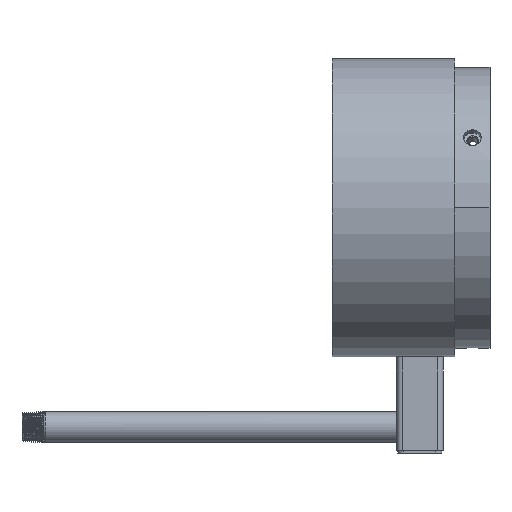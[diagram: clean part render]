
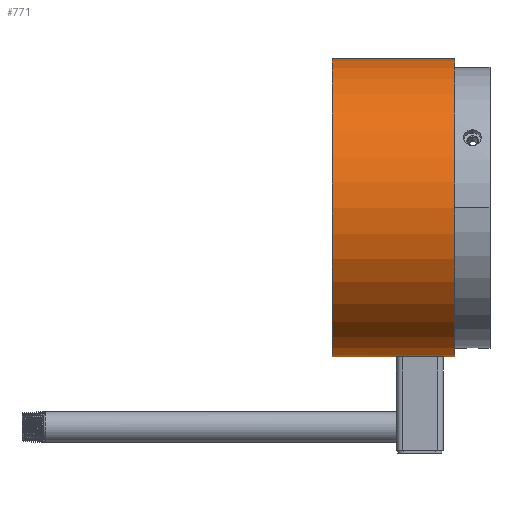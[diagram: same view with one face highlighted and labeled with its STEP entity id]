
A CAD part, left-side view. The second image highlights one B-rep face of the part: STEP entity #771.
In plain terms, the highlighted cylindrical face has radius 161.925 mm (diameter 323.85 mm), a partial arc.
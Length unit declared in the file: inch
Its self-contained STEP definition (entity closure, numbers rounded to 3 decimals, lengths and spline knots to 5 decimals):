
#87 = CARTESIAN_POINT ( 'NONE',  ( -0.31845, 1.44841, -6.36705 ) ) ;
#337 = CARTESIAN_POINT ( 'NONE',  ( -0.04926, 0.87743, -6.37486 ) ) ;
#414 = CARTESIAN_POINT ( 'NONE',  ( -0.14406, 0.90313, -6.3734 ) ) ;
#464 = LINE ( 'NONE', #8086, #7445 ) ;
#490 = DIRECTION ( 'NONE',  ( 0., 1., 0. ) ) ;
#500 = EDGE_CURVE ( 'NONE', #8513, #4469, #5097, .T. ) ;
#526 = DIRECTION ( 'NONE',  ( 0., 1., 0. ) ) ;
#531 = CIRCLE ( 'NONE', #9754, 6.375 ) ;
#771 = ADVANCED_FACE ( 'NONE', ( #3621 ), #11639, .T. ) ;
#821 = CARTESIAN_POINT ( 'NONE',  ( -0.35513, 1.37106, -6.3651 ) ) ;
#861 = CARTESIAN_POINT ( 'NONE',  ( -0.12047, 1.60533, -6.37387 ) ) ;
#942 = CARTESIAN_POINT ( 'NONE',  ( -0.09692, 1.61247, -6.37427 ) ) ;
#1039 = ORIENTED_EDGE ( 'NONE', *, *, #500, .T. ) ;
#1139 = EDGE_CURVE ( 'NONE', #2051, #5544, #10466, .T. ) ;
#1336 = CARTESIAN_POINT ( 'NONE',  ( -0.19841, 0.93155, -6.37192 ) ) ;
#1371 = CARTESIAN_POINT ( 'NONE',  ( -0.02477, 0.875, -6.375 ) ) ;
#1456 = CARTESIAN_POINT ( 'NONE',  ( -0.32554, 1.06225, -6.3667 ) ) ;
#1801 = LINE ( 'NONE', #11778, #1955 ) ;
#1812 = EDGE_CURVE ( 'NONE', #2051, #5770, #5105, .T. ) ;
#1820 = CARTESIAN_POINT ( 'NONE',  ( -0.28236, 1.49798, -6.36877 ) ) ;
#1955 = VECTOR ( 'NONE', #490, 39.37008 ) ;
#1985 = CARTESIAN_POINT ( 'NONE',  ( 0., -0.25, -6.375 ) ) ;
#2033 = B_SPLINE_CURVE_WITH_KNOTS ( 'NONE', 3,
 ( #10590, #2088, #4254, #6093, #3294, #10813, #9848, #5220, #1456, #9817, #9887, #7006, #5139, #1336, #8912, #5099, #414, #4174, #11754, #8058, #337, #1371, #8943 ),
 .UNSPECIFIED., .F., .F.,
 ( 4, 2, 2, 2, 2, 2, 2, 2, 1, 2, 2, 4 ),
 ( 0.04465, 0.04651, 0.04744, 0.04837, 0.05023, 0.05209, 0.05395, 0.05488, 0.05581, 0.05674, 0.05767, 0.05953 ),
 .UNSPECIFIED. ) ;
#2051 = VERTEX_POINT ( 'NONE', #1985 ) ;
#2088 = CARTESIAN_POINT ( 'NONE',  ( -0.375, 1.22523, -6.36396 ) ) ;
#2266 = DIRECTION ( 'NONE',  ( 0., 1., 0. ) ) ;
#2543 = DIRECTION ( 'NONE',  ( 0., 0., 1. ) ) ;
#2664 = CARTESIAN_POINT ( 'NONE',  ( 0., -0.25, 6.375 ) ) ;
#2786 = DIRECTION ( 'NONE',  ( 0., 1., 0. ) ) ;
#2787 = CARTESIAN_POINT ( 'NONE',  ( 0., 0.875, -6.375 ) ) ;
#2837 = DIRECTION ( 'NONE',  ( 0., -1., 0. ) ) ;
#2885 = CARTESIAN_POINT ( 'NONE',  ( -0.34687, 1.39406, -6.36556 ) ) ;
#2896 = ORIENTED_EDGE ( 'NONE', *, *, #1812, .F. ) ;
#2956 = CARTESIAN_POINT ( 'NONE',  ( 0., 1.625, -6.375 ) ) ;
#3038 = CARTESIAN_POINT ( 'NONE',  ( -0.375, 1.25, -6.36396 ) ) ;
#3294 = CARTESIAN_POINT ( 'NONE',  ( -0.36247, 1.15308, -6.36469 ) ) ;
#3559 = CARTESIAN_POINT ( 'NONE',  ( 0., -0.25, 0. ) ) ;
#3621 = FACE_OUTER_BOUND ( 'NONE', #5119, .T. ) ;
#3790 = CARTESIAN_POINT ( 'NONE',  ( -0.08505, 1.61543, -6.37444 ) ) ;
#4035 = AXIS2_PLACEMENT_3D ( 'NONE', #6110, #526, #2543 ) ;
#4174 = CARTESIAN_POINT ( 'NONE',  ( -0.12106, 0.89487, -6.37386 ) ) ;
#4254 = CARTESIAN_POINT ( 'NONE',  ( -0.37257, 1.20088, -6.36411 ) ) ;
#4469 = VERTEX_POINT ( 'NONE', #3038 ) ;
#4529 = DIRECTION ( 'NONE',  ( 0., 0., 1. ) ) ;
#4748 = CARTESIAN_POINT ( 'NONE',  ( -0.18775, 1.57554, -6.37227 ) ) ;
#5015 = ORIENTED_EDGE ( 'NONE', *, *, #1139, .T. ) ;
#5097 = B_SPLINE_CURVE_WITH_KNOTS ( 'NONE', 3,
 ( #11418, #5637, #5759, #3790, #942, #861, #11291, #9472, #4748, #10313, #12259, #1820, #8601, #87, #12300, #5678, #2885, #821, #6622, #8517, #10401, #7553, #6577 ),
 .UNSPECIFIED., .F., .F.,
 ( 4, 2, 2, 2, 2, 2, 2, 2, 1, 2, 2, 4 ),
 ( 0.02977, 0.03163, 0.03256, 0.03349, 0.03535, 0.03721, 0.03907, 0.04, 0.04093, 0.04186, 0.04279, 0.04465 ),
 .UNSPECIFIED. ) ;
#5099 = CARTESIAN_POINT ( 'NONE',  ( -0.16615, 0.91359, -6.37284 ) ) ;
#5105 = LINE ( 'NONE', #8263, #9152 ) ;
#5119 = EDGE_LOOP ( 'NONE', ( #2896, #5015, #11964, #9713, #8564, #1039, #12047 ) ) ;
#5139 = CARTESIAN_POINT ( 'NONE',  ( -0.22912, 0.95212, -6.37091 ) ) ;
#5220 = CARTESIAN_POINT ( 'NONE',  ( -0.33705, 1.08378, -6.36609 ) ) ;
#5379 = CARTESIAN_POINT ( 'NONE',  ( 0., 5., 0. ) ) ;
#5544 = VERTEX_POINT ( 'NONE', #2664 ) ;
#5637 = CARTESIAN_POINT ( 'NONE',  ( -0.02477, 1.625, -6.375 ) ) ;
#5678 = CARTESIAN_POINT ( 'NONE',  ( -0.33641, 1.41615, -6.36612 ) ) ;
#5759 = CARTESIAN_POINT ( 'NONE',  ( -0.04912, 1.62257, -6.37486 ) ) ;
#5770 = VERTEX_POINT ( 'NONE', #2787 ) ;
#5843 = EDGE_CURVE ( 'NONE', #4469, #5770, #2033, .T. ) ;
#6093 = CARTESIAN_POINT ( 'NONE',  ( -0.36543, 1.16495, -6.36452 ) ) ;
#6110 = CARTESIAN_POINT ( 'NONE',  ( 0., -0.25, 0. ) ) ;
#6304 = DIRECTION ( 'NONE',  ( 0., 1., 0. ) ) ;
#6536 = EDGE_CURVE ( 'NONE', #5544, #10782, #1801, .T. ) ;
#6577 = CARTESIAN_POINT ( 'NONE',  ( -0.375, 1.25, -6.36396 ) ) ;
#6596 = EDGE_CURVE ( 'NONE', #8513, #8919, #464, .T. ) ;
#6622 = CARTESIAN_POINT ( 'NONE',  ( -0.36228, 1.34761, -6.3647 ) ) ;
#6881 = CARTESIAN_POINT ( 'NONE',  ( 0., 5., 6.375 ) ) ;
#7006 = CARTESIAN_POINT ( 'NONE',  ( -0.24798, 0.96764, -6.3702 ) ) ;
#7445 = VECTOR ( 'NONE', #2266, 39.37008 ) ;
#7553 = CARTESIAN_POINT ( 'NONE',  ( -0.375, 1.27477, -6.36396 ) ) ;
#8058 = CARTESIAN_POINT ( 'NONE',  ( -0.0856, 0.88469, -6.37444 ) ) ;
#8086 = CARTESIAN_POINT ( 'NONE',  ( 0., -0.25, -6.375 ) ) ;
#8263 = CARTESIAN_POINT ( 'NONE',  ( 0., -0.25, -6.375 ) ) ;
#8513 = VERTEX_POINT ( 'NONE', #2956 ) ;
#8517 = CARTESIAN_POINT ( 'NONE',  ( -0.36531, 1.3356, -6.36453 ) ) ;
#8564 = ORIENTED_EDGE ( 'NONE', *, *, #6596, .F. ) ;
#8601 = CARTESIAN_POINT ( 'NONE',  ( -0.29788, 1.47912, -6.36805 ) ) ;
#8912 = CARTESIAN_POINT ( 'NONE',  ( -0.18777, 0.92517, -6.37224 ) ) ;
#8919 = VERTEX_POINT ( 'NONE', #11319 ) ;
#8943 = CARTESIAN_POINT ( 'NONE',  ( 0., 0.875, -6.375 ) ) ;
#9152 = VECTOR ( 'NONE', #6304, 39.37008 ) ;
#9472 = CARTESIAN_POINT ( 'NONE',  ( -0.16622, 1.58705, -6.37287 ) ) ;
#9713 = ORIENTED_EDGE ( 'NONE', *, *, #12112, .T. ) ;
#9754 = AXIS2_PLACEMENT_3D ( 'NONE', #5379, #2837, #12208 ) ;
#9817 = CARTESIAN_POINT ( 'NONE',  ( -0.29836, 1.02151, -6.36803 ) ) ;
#9848 = CARTESIAN_POINT ( 'NONE',  ( -0.35115, 1.11782, -6.36532 ) ) ;
#9887 = CARTESIAN_POINT ( 'NONE',  ( -0.28254, 1.00222, -6.36876 ) ) ;
#10237 = AXIS2_PLACEMENT_3D ( 'NONE', #3559, #2786, #4529 ) ;
#10313 = CARTESIAN_POINT ( 'NONE',  ( -0.22849, 1.54836, -6.37094 ) ) ;
#10401 = CARTESIAN_POINT ( 'NONE',  ( -0.37257, 1.29926, -6.36411 ) ) ;
#10466 = CIRCLE ( 'NONE', #10237, 6.375 ) ;
#10590 = CARTESIAN_POINT ( 'NONE',  ( -0.375, 1.25, -6.36396 ) ) ;
#10782 = VERTEX_POINT ( 'NONE', #6881 ) ;
#10813 = CARTESIAN_POINT ( 'NONE',  ( -0.35533, 1.12953, -6.36509 ) ) ;
#11291 = CARTESIAN_POINT ( 'NONE',  ( -0.13218, 1.60115, -6.37364 ) ) ;
#11319 = CARTESIAN_POINT ( 'NONE',  ( 0., 5., -6.375 ) ) ;
#11418 = CARTESIAN_POINT ( 'NONE',  ( 0., 1.625, -6.375 ) ) ;
#11639 = CYLINDRICAL_SURFACE ( 'NONE', #4035, 6.375 ) ;
#11754 = CARTESIAN_POINT ( 'NONE',  ( -0.09761, 0.88772, -6.37426 ) ) ;
#11778 = CARTESIAN_POINT ( 'NONE',  ( 0., -0.25, 6.375 ) ) ;
#11964 = ORIENTED_EDGE ( 'NONE', *, *, #6536, .T. ) ;
#12047 = ORIENTED_EDGE ( 'NONE', *, *, #5843, .T. ) ;
#12112 = EDGE_CURVE ( 'NONE', #10782, #8919, #531, .T. ) ;
#12208 = DIRECTION ( 'NONE',  ( 0., 0., 1. ) ) ;
#12259 = CARTESIAN_POINT ( 'NONE',  ( -0.24778, 1.53254, -6.37021 ) ) ;
#12300 = CARTESIAN_POINT ( 'NONE',  ( -0.32483, 1.43777, -6.36672 ) ) ;
